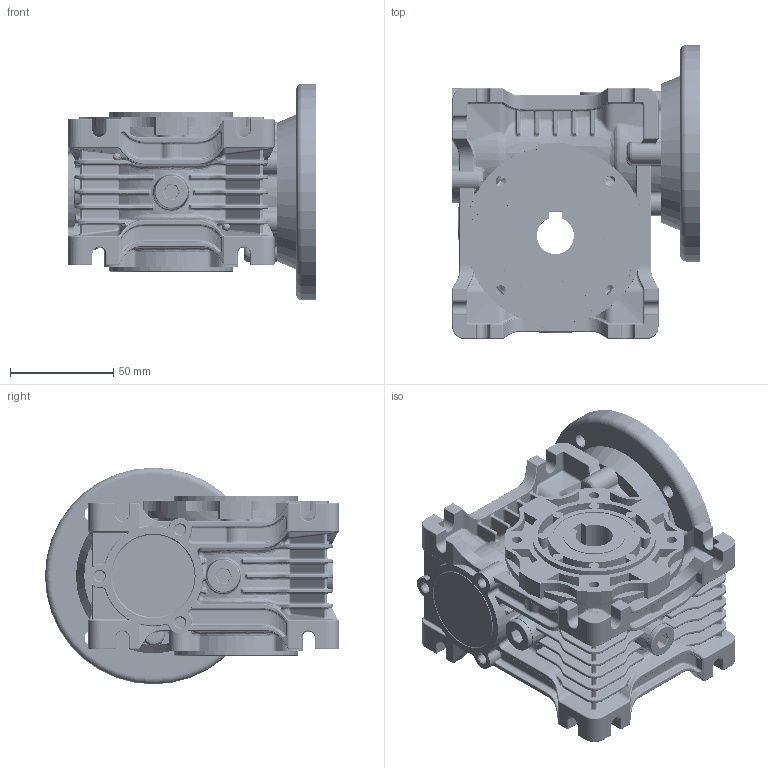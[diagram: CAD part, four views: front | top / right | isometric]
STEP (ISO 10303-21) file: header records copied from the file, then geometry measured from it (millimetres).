
FILE_DESCRIPTION (( 'STEP AP203' ), '1' );
FILE_NAME ('NMRV40-71B14.STEP', '2018-12-10T05:36:21', ( '微软中国' ), ( '微软中国' ), 'SwSTEP 2.0', 'SolidWorks 2016', '' );
FILE_SCHEMA (( 'CONFIG_CONTROL_DESIGN' ));
Products named in the file (1): NMRV40-71B14
Bounding box: 120 x 142.5 x 105 mm (x, y, z)
Surface area: 204650.6 mm2 (no closed solid volume)
Topology: 0 solids, 13 shells, 4921 faces, 11843 edges, 6650 vertices
Faces by surface type: bspline 2227, cylinder 1770, plane 773, cone 108, torus 43
Entity records: 222681 total; most frequent: CARTESIAN_POINT 129000, ORIENTED_EDGE 22982, DIRECTION 15379, EDGE_CURVE 11495, VERTEX_POINT 6650, AXIS2_PLACEMENT_3D 6018, EDGE_LOOP 5003, FACE_OUTER_BOUND 4921
